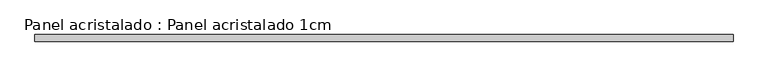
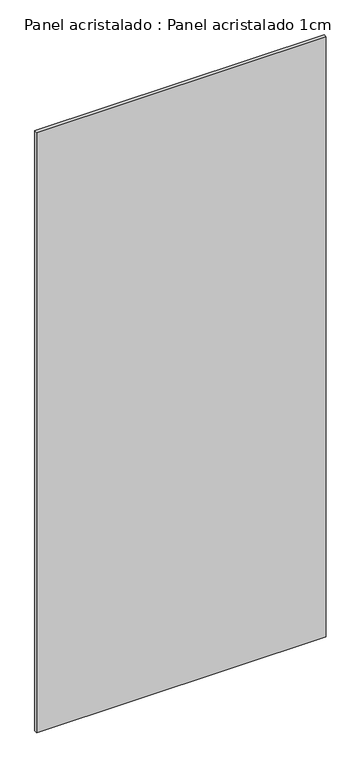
"""IFC4 building model written with IfcOpenShell, lengths in millimetres: plate geometry, Panel acristalado : Panel acristalado 1cm."""

from ifc_helpers import new_model, si_unit, origin, origin_with_axes, place, context, project, spatial, polyline, outline, extrude, source, transform, mapped, element, save


def panel_acristalado_panel_acristalado_1cm_c6dde98c(model_context):
    return source(origin(), model_context, "Body", "SweptSolid", [
        extrude(outline(polyline([(502.000001, 20.0), (-502.000001, 20.0), (-502.000001, 30.0), (502.000001, 30.0), (502.000001, 20.0)])), origin_with_axes(), (0.0, 0.0, 1.0), 2200.0),
    ])


if __name__ == "__main__":
    model = new_model("IFC4")
    model_context = context("Model", 3, world=origin())
    ifc_project = project(units=[si_unit("LENGTHUNIT", "METRE", prefix="MILLI")], contexts=[model_context])
    site = spatial("IfcSite", under=ifc_project)
    building = spatial("IfcBuilding", under=site)
    placement = place(None, origin())
    panel_acristalado_panel_acristalado_1cm_shape = panel_acristalado_panel_acristalado_1cm_c6dde98c(model_context)
    element("IfcPlate", 1, ObjectType="Panel acristalado : Panel acristalado 1cm", at=placement, inside=building, context=model_context, shape_type="MappedRepresentation", body=[
        mapped(panel_acristalado_panel_acristalado_1cm_shape, transform((0.0, 0.0, 0.0), x_axis=(1.0, 0.0, 0.0), y_axis=(0.0, 1.0, 0.0), z_axis=(0.0, 0.0, 1.0))),
    ])
    save(model, "model.ifc")
